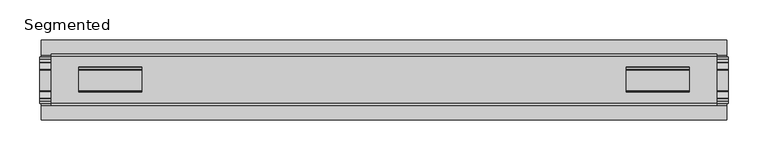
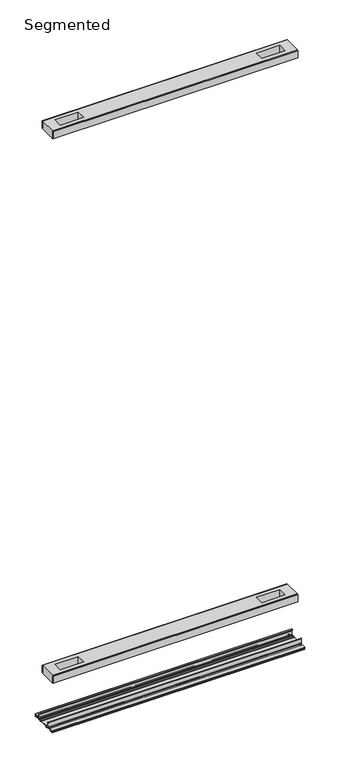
"""IFC4 building model written with IfcOpenShell, lengths in millimetres: proxy geometry, Frame-Teknion-FHCRA-Horizontal_Rail-R2022 : Segmented."""

from ifc_helpers import new_model, si_unit, point, frame, frame_2d, origin, place, context, project, spatial, polyline, circle_curve, trimmed, segment, composite_curve, outline, extrude, source, transform, mapped, element, save


def segmented_a9542c41(model_context):
    return source(origin(), model_context, "Body", "SweptSolid", [
        extrude(outline(polyline([(417.1410582, 29.0068005), (-417.1410582, 29.0068005), (-417.1410582, 32.1817997), (417.1410582, 32.1817997), (417.1410582, 29.0068005)])), frame((0.0, 0.0, 2107.0117561), z_axis=(0.0, 0.0, 1.0), x_axis=(1.0, 0.0, 0.0)), (0.0, 0.0, 1.0), 25.3999939),
        extrude(outline(polyline([(417.1410582, -32.1817997), (-417.1410582, -32.1817997), (-417.1410582, -29.0068005), (417.1410582, -29.0068005), (417.1410582, -32.1817997)])), frame((0.0, 0.0, 2107.0117561), z_axis=(0.0, 0.0, 1.0), x_axis=(1.0, 0.0, 0.0)), (0.0, 0.0, 1.0), 25.3999939),
        extrude(outline(polyline([(417.1410582, -29.0068005), (-417.1410582, -29.0068005), (-417.1410582, 29.0068005), (417.1410582, 29.0068005), (417.1410582, -29.0068005)]), holes=[polyline([(382.7240456, -15.1130038), (382.7240456, 15.875003), (303.6792337, 15.875003), (303.6792337, -15.1130038), (382.7240456, -15.1130038)]), polyline([(-382.7240456, -15.1130038), (-303.6792337, -15.1130038), (-303.6792337, 15.875003), (-382.7240456, 15.875003), (-382.7240456, -15.1130038)])]), frame((0.0, 0.0, 2105.5901786), z_axis=(0.0, 0.0, 1.0), x_axis=(1.0, 0.0, 0.0)), (0.0, 0.0, 1.0), 27.9999988),
        extrude(outline(polyline([(417.1410582, 29.0068005), (-417.1410582, 29.0068005), (-417.1410582, 32.1817997), (417.1410582, 32.1817997), (417.1410582, 29.0068005)])), frame((0.0, 0.0, 149.8401622), z_axis=(0.0, 0.0, 1.0), x_axis=(1.0, 0.0, 0.0)), (0.0, 0.0, 1.0), 25.3999939),
        extrude(outline(polyline([(417.1410582, -32.1817997), (-417.1410582, -32.1817997), (-417.1410582, -29.0068005), (417.1410582, -29.0068005), (417.1410582, -32.1817997)])), frame((0.0, 0.0, 149.8401622), z_axis=(0.0, 0.0, 1.0), x_axis=(1.0, 0.0, 0.0)), (0.0, 0.0, 1.0), 25.3999939),
        extrude(outline(polyline([(417.1410582, -29.0068005), (-417.1410582, -29.0068005), (-417.1410582, 29.0068005), (417.1410582, 29.0068005), (417.1410582, -29.0068005)]), holes=[polyline([(382.7240456, -15.1130038), (382.7240456, 15.875003), (303.6792337, 15.875003), (303.6792337, -15.1130038), (382.7240456, -15.1130038)]), polyline([(-382.7240456, -15.1130038), (-303.6792337, -15.1130038), (-303.6792337, 15.875003), (-382.7240456, 15.875003), (-382.7240456, -15.1130038)])]), frame((0.0, 0.0, 148.4185847), z_axis=(0.0, 0.0, 1.0), x_axis=(1.0, 0.0, 0.0)), (0.0, 0.0, 1.0), 27.9999988),
        extrude(outline(composite_curve([segment(trimmed(circle_curve(frame_2d((26.6420561, -7.7516037)), 2.17424), [point((28.8162961, -7.7516037))], [point((26.6420561, -9.9258438))], False, "CARTESIAN"), True, "CONTINUOUS"), segment(polyline([(26.6420561, -9.9258438), (22.3510694, -9.9258438)]), True, "CONTINUOUS"), segment(trimmed(circle_curve(frame_2d((17.7706549, -6.4800016)), 5.7318431), [point((22.3510694, -9.9258438))], [point((13.1902404, -9.9258438))], False, "CARTESIAN"), True, "CONTINUOUS"), segment(polyline([(13.1902404, -9.9258438), (-13.57124, -9.9258438)]), True, "CONTINUOUS"), segment(trimmed(circle_curve(frame_2d((-18.1516545, -6.4800016)), 5.7318431), [point((-13.57124, -9.9258438))], [point((-22.732069, -9.9258438))], False, "CARTESIAN"), True, "CONTINUOUS"), segment(polyline([(-22.732069, -9.9258438), (-27.0230557, -9.9258438)]), True, "CONTINUOUS"), segment(trimmed(circle_curve(frame_2d((-27.0230557, -7.7516037)), 2.17424), [point((-27.0230557, -9.9258438))], [point((-29.1972958, -7.7516037))], False, "CARTESIAN"), True, "CONTINUOUS"), segment(polyline([(-29.1972958, -7.7516037), (-29.1972958, 9.8607558)]), True, "CONTINUOUS"), segment(trimmed(circle_curve(frame_2d((-27.9780978, 9.8607558)), 1.2191979), [point((-29.1972958, 9.8607558))], [point((-26.7588999, 9.8607558))], False, "CARTESIAN"), True, "CONTINUOUS"), segment(polyline([(-26.7588999, 9.8607558), (-26.7588999, 5.9999563), (-28.0390765, 5.9999563), (-28.0390765, -7.7516037)]), True, "CONTINUOUS"), segment(trimmed(circle_curve(frame_2d((-27.0230557, -7.7516037)), 1.0160208), [point((-28.0390765, -7.7516037))], [point((-27.0295728, -8.7676036))], True, "CARTESIAN"), True, "CONTINUOUS"), segment(polyline([(-27.0295728, -8.7676036), (-23.0866222, -8.7676036), (-22.1732605, -8.968753)]), True, "CONTINUOUS"), segment(trimmed(circle_curve(frame_2d((-18.1483018, -6.1259382)), 4.9276657), [point((-22.1732605, -8.968753))], [point((-14.123343, -8.968753))], True, "CARTESIAN"), True, "CONTINUOUS"), segment(polyline([(-14.123343, -8.968753), (-13.2099722, -8.7676036), (12.8289726, -8.7676036), (13.7423434, -8.968753)]), True, "CONTINUOUS"), segment(trimmed(circle_curve(frame_2d((17.7673021, -6.1259382)), 4.9276657), [point((13.7423434, -8.968753))], [point((21.7922609, -8.968753))], True, "CARTESIAN"), True, "CONTINUOUS"), segment(polyline([(21.7922609, -8.968753), (22.7056226, -8.7676036), (26.6485732, -8.7676036)]), True, "CONTINUOUS"), segment(trimmed(circle_curve(frame_2d((26.6420561, -7.7516037)), 1.0160208), [point((26.6485732, -8.7676036))], [point((27.6580769, -7.7516037))], True, "CARTESIAN"), True, "CONTINUOUS"), segment(polyline([(27.6580769, -7.7516037), (27.6580769, 5.9999563), (26.3779003, 5.9999563), (26.3779003, 9.8607558)]), True, "CONTINUOUS"), segment(trimmed(circle_curve(frame_2d((27.5970982, 9.8607558)), 1.2191979), [point((26.3779003, 9.8607558))], [point((28.8162961, 9.8607558))], False, "CARTESIAN"), True, "CONTINUOUS"), segment(polyline([(28.8162961, 9.8607558), (28.8162961, -7.7516037)]), True, "CONTINUOUS")], self_intersect=False)), frame((-431.199949, 0.0, 0.0), z_axis=(1.0, 0.0, 0.0), x_axis=(0.0, 1.0, 0.0)), (0.0, 0.0, 1.0), 862.3998981),
        extrude(outline(composite_curve([segment(polyline([(50.2668422, -13.9898438), (39.6557522, -13.9898438)]), True, "CONTINUOUS"), segment(trimmed(circle_curve(frame_2d((39.6557522, -12.4658438)), 1.524), [point((39.6557522, -13.9898438))], [point((38.1317522, -12.4658438))], False, "CARTESIAN"), True, "CONTINUOUS"), segment(polyline([(38.1317522, -12.4658438), (38.1317522, -7.766844), (31.3054974, -7.766844), (31.3054974, -10.0528438)]), True, "CONTINUOUS"), segment(trimmed(circle_curve(frame_2d((29.7814974, -10.0528438)), 1.524), [point((31.3054974, -10.0528438))], [point((29.7814974, -11.5768438))], False, "CARTESIAN"), True, "CONTINUOUS"), segment(polyline([(29.7814974, -11.5768438), (23.2753553, -11.5768438)]), True, "CONTINUOUS"), segment(trimmed(circle_curve(frame_2d((17.7673021, -6.4968436)), 7.4930002), [point((23.2753553, -11.5768438))], [point((12.5094972, -11.8354331))], False, "CARTESIAN"), True, "CONTINUOUS"), segment(polyline([(12.5094972, -11.8354331), (-12.8904968, -11.8354331)]), True, "CONTINUOUS"), segment(trimmed(circle_curve(frame_2d((-18.1483018, -6.4968436)), 7.4930002), [point((-12.8904968, -11.8354331))], [point((-23.6563549, -11.5768438))], False, "CARTESIAN"), True, "CONTINUOUS"), segment(polyline([(-23.6563549, -11.5768438), (-30.1624971, -11.5768438)]), True, "CONTINUOUS"), segment(trimmed(circle_curve(frame_2d((-30.1624971, -10.0528438)), 1.524), [point((-30.1624971, -11.5768438))], [point((-31.686497, -10.0528438))], False, "CARTESIAN"), True, "CONTINUOUS"), segment(polyline([(-31.686497, -10.0528438), (-31.686497, -7.766844), (-38.5127519, -7.766844), (-38.5127519, -12.4658438)]), True, "CONTINUOUS"), segment(trimmed(circle_curve(frame_2d((-40.0367518, -12.4658438)), 1.524), [point((-38.5127519, -12.4658438))], [point((-40.0367518, -13.9898438))], False, "CARTESIAN"), True, "CONTINUOUS"), segment(polyline([(-40.0367518, -13.9898438), (-50.00625, -13.9898438), (-50.00625, -12.3388438), (-40.1637503, -12.3388438), (-40.1637503, -7.766844), (-50.00625, -7.766844), (-50.00625, -6.1158439), (-31.6239218, -6.1158439)]), True, "CONTINUOUS"), segment(trimmed(circle_curve(frame_2d((-31.6864982, -7.7656583)), 1.6510007), [point((-31.6239218, -6.1158439))], [point((-30.0354975, -7.7656583))], False, "CARTESIAN"), True, "CONTINUOUS"), segment(polyline([(-30.0354975, -7.7656583), (-30.0354975, -9.9258438), (-23.486834, -9.9258438)]), True, "CONTINUOUS"), segment(trimmed(circle_curve(frame_2d((-18.1483018, -5.2268471)), 7.1119966), [point((-23.486834, -9.9258438))], [point((-12.8097695, -9.9258438))], True, "CARTESIAN"), True, "CONTINUOUS"), segment(polyline([(-12.8097695, -9.9258438), (12.4287699, -9.9258438)]), True, "CONTINUOUS"), segment(trimmed(circle_curve(frame_2d((17.7673021, -5.2268471)), 7.1119966), [point((12.4287699, -9.9258438))], [point((23.1058344, -9.9258438))], True, "CARTESIAN"), True, "CONTINUOUS"), segment(polyline([(23.1058344, -9.9258438), (29.6544978, -9.9258438), (29.6544978, -7.6398436)]), True, "CONTINUOUS"), segment(trimmed(circle_curve(frame_2d((31.1784975, -7.6398436)), 1.5239997), [point((29.6544978, -7.6398436))], [point((31.1784975, -6.1158439))], False, "CARTESIAN"), True, "CONTINUOUS"), segment(polyline([(31.1784975, -6.1158439), (50.2668422, -6.1158439), (50.2240211, -7.766844), (39.7827507, -7.766844), (39.7827507, -12.3388438), (50.2240211, -12.3388438), (50.2668422, -13.9898438)]), True, "CONTINUOUS")], self_intersect=False)), frame((-429.548949, 0.0, 0.0), z_axis=(1.0, 0.0, 0.0), x_axis=(0.0, 1.0, 0.0)), (0.0, 0.0, 1.0), 859.0978981),
    ])


if __name__ == "__main__":
    model = new_model("IFC4")
    model_context = context("Model", 3, world=origin())
    ifc_project = project(units=[si_unit("LENGTHUNIT", "METRE", prefix="MILLI")], contexts=[model_context])
    site = spatial("IfcSite", under=ifc_project)
    building = spatial("IfcBuilding", under=site)
    placement = place(None, origin())
    segmented_shape = segmented_a9542c41(model_context)
    element("IfcBuildingElementProxy", 1, Name="Frame-Teknion-FHCRA-Horizontal_Rail-R2022 : Segmented", ObjectType="Frame-Teknion-FHCRA-Horizontal_Rail-R2022 : Segmented", at=placement, inside=building, context=model_context, shape_type="MappedRepresentation", body=[
        mapped(segmented_shape, transform((0.0, 0.0, 0.0), x_axis=(1.0, 0.0, 0.0), y_axis=(0.0, 1.0, 0.0), z_axis=(0.0, 0.0, 1.0))),
    ])
    save(model, "model.ifc")
